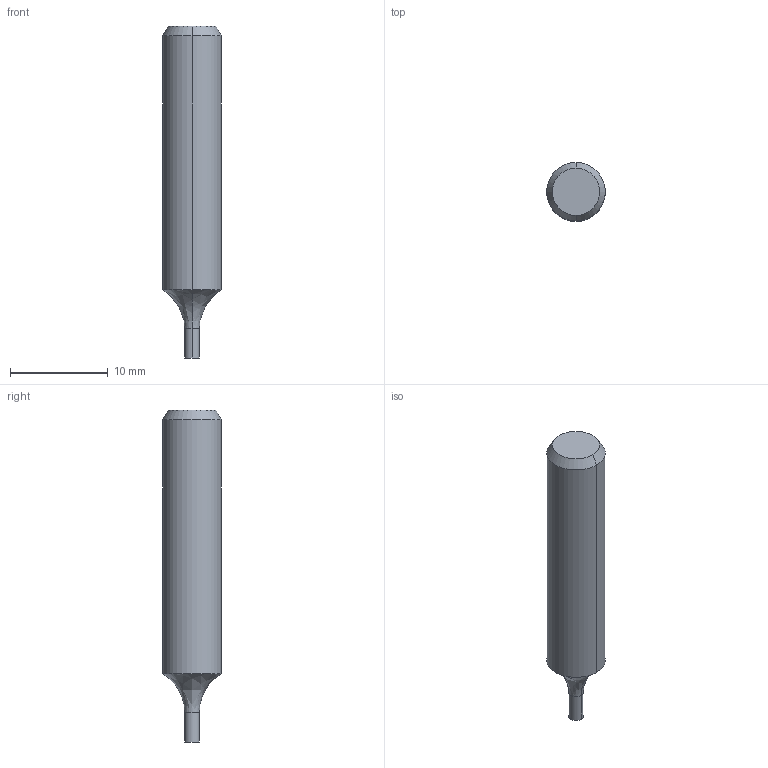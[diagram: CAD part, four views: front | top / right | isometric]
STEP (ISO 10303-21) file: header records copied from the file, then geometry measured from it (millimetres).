
FILE_DESCRIPTION((''),'2;1');
FILE_NAME('DIN4003_82_HEURO','2018-10-10T',('automd'),(''),'PRO/ENGINEER BY PARAMETRIC TECHNOLOGY CORPORATION, 2015280','PRO/ENGINEER BY PARAMETRIC TECHNOLOGY CORPORATION, 2015280','');
FILE_SCHEMA(('AUTOMOTIVE_DESIGN { 1 0 10303 214 1 1 1 1 }'));
Length unit declared in the file: millimetre
Products named in the file (1): DIN4003_82_HEURO
Bounding box: 6 x 6 x 34 mm (x, y, z)
Volume: 793.6 mm3; surface area: 590.1 mm2
Topology: 1 solids, 1 shells, 10 faces, 20 edges, 13 vertices
Faces by surface type: bspline 10
Entity records: 829 total; most frequent: CARTESIAN_POINT 403, DIRECTION 61, ORIENTED_EDGE 36, AXIS2_PLACEMENT_3D 24, PRESENTATION_STYLE_ASSIGNMENT 20, STYLED_ITEM 20, COLOUR_RGB 18, EDGE_CURVE 18
